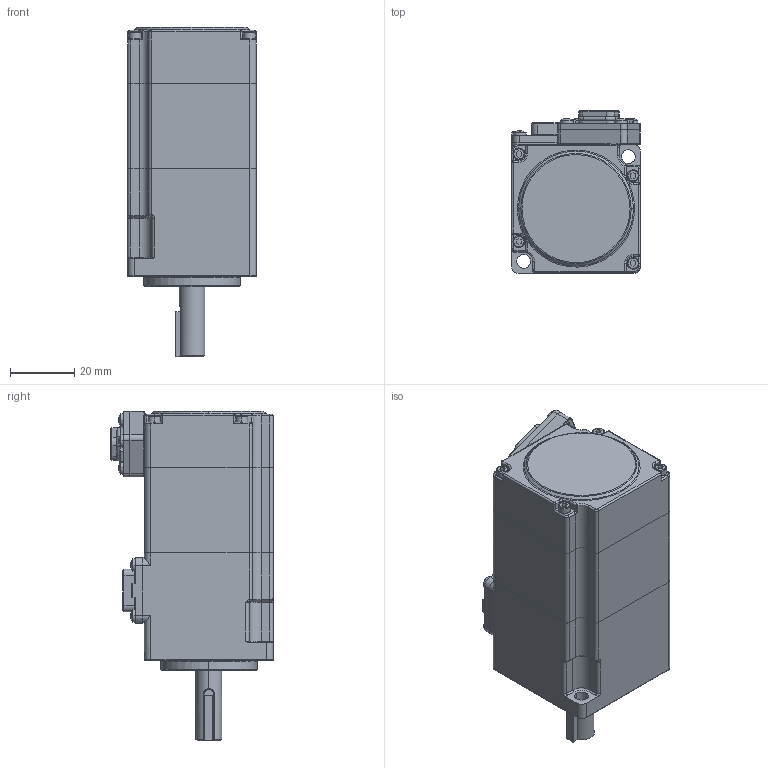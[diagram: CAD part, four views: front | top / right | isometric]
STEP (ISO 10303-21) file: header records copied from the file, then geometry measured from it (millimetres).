
FILE_DESCRIPTION((''),'2;1');
FILE_NAME('40-50W0001_ASM_3_ASM','2024-10-22T13:58:02',('admin'),(''),'CREO PARAMETRIC BY PTC INC, 2019080','CREO PARAMETRIC BY PTC INC, 2019080','');
FILE_SCHEMA(('CONFIG_CONTROL_DESIGN'));
Products named in the file (16): 40-50W0003_4; SC-MC6P-AP2G-041_1; 40-50W0002_ASM_4_ASM; 40-50W0007_3; _607000_1; _699000_1; 400001_13; 40-50W0006_ASM_4_ASM; 000_4; 40000_15; SC-MC7P-A60G-18_13; ISO7045-M2X4-4_8_1; ISO7045-M2X5-4_8_1; ISO14579-M2X16-8_8_2; 3-300_3; 40-50W0001_ASM_3_ASM
Assembly tree (24 placements, depth 3):
  40-50W0001_ASM_3_ASM
    40-50W0002_ASM_4_ASM
      40-50W0003_4
      SC-MC6P-AP2G-041_1
    40-50W0006_ASM_4_ASM
      40-50W0007_3
      _607000_1
      _699000_1
      400001_13
    000_4
    40000_15
    SC-MC7P-A60G-18_13
    ISO7045-M2X4-4_8_1  x4
    ISO7045-M2X5-4_8_1  x4
    ISO14579-M2X16-8_8_2  x4
    3-300_3
Bounding box: 40 x 50.45 x 102.5 mm (x, y, z)
Volume: 56627.5 mm3; surface area: 44686.2 mm2
Topology: 22 solids, 46 shells, 2553 faces, 6760 edges, 4354 vertices
Faces by surface type: plane 1278, cylinder 831, torus 183, cone 137, extrusion 49, sphere 47, bspline 28
Entity records: 76131 total; most frequent: CARTESIAN_POINT 16381, DIRECTION 12694, ORIENTED_EDGE 12255, EDGE_CURVE 6181, AXIS2_PLACEMENT_3D 4480, VERTEX_POINT 4012, VECTOR 3734, LINE 3685
